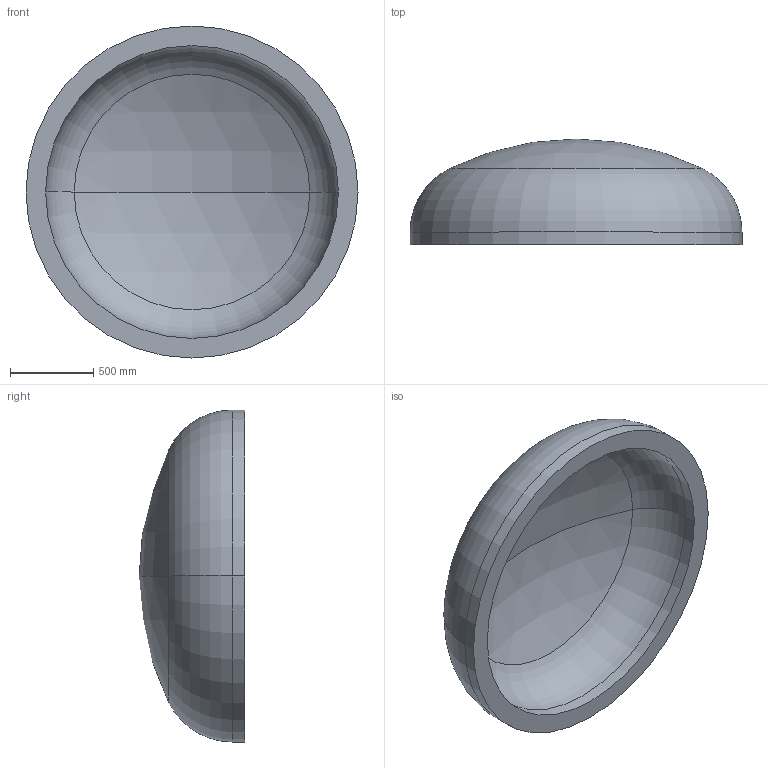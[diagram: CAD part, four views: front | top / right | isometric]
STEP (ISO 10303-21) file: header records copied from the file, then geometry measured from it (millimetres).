
FILE_DESCRIPTION (( 'STEP AP203' ), '1' );
FILE_NAME ('DIN 28013 Korbbogenform_-_Boden DIN 28013 - 2000 x 75 - I - s=118.step', '2016-07-01T14:13:51', ( '' ), ( '' ), 'SwSTEP 2.0', 'SolidWorks 2013', '' );
FILE_SCHEMA (( 'CONFIG_CONTROL_DESIGN' ));
Length unit declared in the file: millimetre
Products named in the file (1): DIN 28013 Korbbogenform_-_Boden DIN 28013 - 2000 x 75 - I - s=118
Bounding box: 2000 x 636.75 x 2000 mm (x, y, z)
Volume: 529162973 mm3; surface area: 9695696.3 mm2
Topology: 1 solids, 1 shells, 13 faces, 24 edges, 14 vertices
Faces by surface type: torus 4, cylinder 4, sphere 4, plane 1
Entity records: 407 total; most frequent: DIRECTION 72, CARTESIAN_POINT 52, ORIENTED_EDGE 48, AXIS2_PLACEMENT_3D 34, EDGE_CURVE 24, CIRCLE 20, EDGE_LOOP 14, VERTEX_POINT 14
